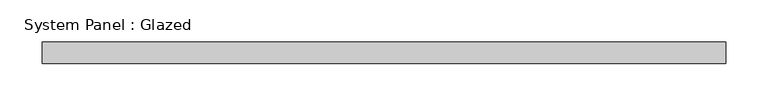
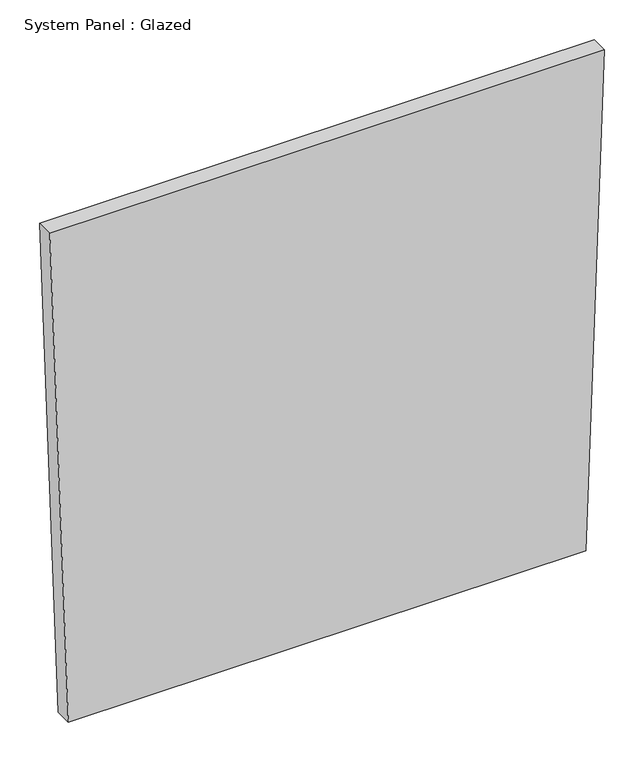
"""IFC4 building model written with IfcOpenShell, lengths in millimetres: plate geometry, System Panel : Glazed."""

import ifcopenshell
import ifcopenshell.guid

model = None  # the IFC model being written
_history = None  # IfcOwnerHistory: only IFC2X3 demands one
_inside = {}  # id of a spatial element -> (the spatial element, [elements in it])
_under = {}  # id of a project, library or spatial element -> (it, [spatial elements below it])
_declared = {}  # id of a project -> (the project, [libraries it declares])
_typed = {}  # id of a type object -> (the type object, [elements of that type])
_made_of = {}  # id of a material, layer set ... -> (it, [elements and type objects made of it])


def new_model(schema):
    """Start an empty IFC model of exactly this schema.

    Asked for "IFC4X3", IfcOpenShell would pick the latest addendum, in which some entities
    have other attributes; the version numbers below select the first issue.
    IFC2X3 requires an IfcOwnerHistory on every rooted entity: one is made here for all.
    """
    global model, _history
    if schema == "IFC4X3":
        model = ifcopenshell.file(schema_version=(4, 3, 0, 0))
    else:
        model = ifcopenshell.file(schema=schema)
    _inside.clear()
    _under.clear()
    _declared.clear()
    _typed.clear()
    _made_of.clear()
    _history = None
    if model.schema == "IFC2X3":
        org = make("IfcOrganization", Name="unknown")
        user = make(
            "IfcPersonAndOrganization",
            ThePerson=make("IfcPerson", FamilyName="unknown"),
            TheOrganization=org,
        )
        app = make(
            "IfcApplication",
            ApplicationDeveloper=org,
            Version="unknown",
            ApplicationFullName="unknown",
            ApplicationIdentifier="unknown",
        )
        _history = make(
            "IfcOwnerHistory",
            OwningUser=user,
            OwningApplication=app,
            ChangeAction="ADDED",
            CreationDate=0,
        )
    return model


def make(cls, **values):
    """One entity of the class cls with the attributes given. An attribute that is None is left unset."""
    return model.create_entity(
        cls, **{name: value for name, value in values.items() if value is not None}
    )


def rooted(cls, **values):
    """An entity with a GlobalId (a new one), such as an element, a storey or a relation."""
    return make(cls, GlobalId=ifcopenshell.guid.new(), OwnerHistory=_history, **values)


def si_unit(unit_type, name, prefix=None):
    """IfcSIUnit, for example si_unit("LENGTHUNIT", "METRE", prefix="MILLI")."""
    return make("IfcSIUnit", UnitType=unit_type, Prefix=prefix, Name=name)


def assignment(units):
    """IfcUnitAssignment: the units of a project."""
    return None if units is None else make("IfcUnitAssignment", Units=units)


def point(xyz):
    """IfcCartesianPoint."""
    return None if xyz is None else make("IfcCartesianPoint", Coordinates=xyz)


def direction(xyz):
    """IfcDirection."""
    return None if xyz is None else make("IfcDirection", DirectionRatios=xyz)


def frame(location, z_axis=None, x_axis=None):
    """IfcAxis2Placement3D, a coordinate frame: its origin and axes. An axis left out is left unset."""
    return make(
        "IfcAxis2Placement3D",
        Location=point(location),
        Axis=direction(z_axis),
        RefDirection=direction(x_axis),
    )


def origin():
    """The frame at (0, 0, 0) with its axes left unset."""
    return frame((0.0, 0.0, 0.0))


def place(relative_to, where):
    """IfcLocalPlacement: puts the frame where relative to a parent placement (None: the world)."""
    return make(
        "IfcLocalPlacement", PlacementRelTo=relative_to, RelativePlacement=where
    )


def context(
    kind, dimensions, precision=None, world=None, true_north=None, identifier=None
):
    """IfcGeometricRepresentationContext, for example the 3D "Model" context."""
    return make(
        "IfcGeometricRepresentationContext",
        ContextIdentifier=identifier,
        ContextType=kind,
        CoordinateSpaceDimension=dimensions,
        Precision=precision,
        WorldCoordinateSystem=world,
        TrueNorth=true_north,
    )


def project(units=None, contexts=None):
    """IfcProject with its units and contexts."""
    return rooted(
        "IfcProject",
        Name="project",
        RepresentationContexts=contexts,
        UnitsInContext=assignment(units),
    )


def spatial(cls, under=None, at=None, **own):
    """A site, building, storey or space (cls), placed at a placement, below another one or the project."""
    s = rooted(cls, ObjectPlacement=at, **own)
    if under is not None:
        _under.setdefault(under.id(), (under, []))[1].append(s)
    return s


def polyline(points):
    """IfcPolyline through the points."""
    return make("IfcPolyline", Points=[point(p) for p in points])


def outline(outer, holes=None, kind="AREA"):
    """IfcArbitraryClosedProfileDef: a profile drawn as a closed curve; with holes, ...WithVoids."""
    if holes is None:
        return make("IfcArbitraryClosedProfileDef", ProfileType=kind, OuterCurve=outer)
    return make(
        "IfcArbitraryProfileDefWithVoids",
        ProfileType=kind,
        OuterCurve=outer,
        InnerCurves=holes,
    )


def extrude(swept, where, along, depth):
    """IfcExtrudedAreaSolid: the profile swept, set in the frame where, extruded along a direction by depth."""
    return make(
        "IfcExtrudedAreaSolid",
        SweptArea=swept,
        Position=where,
        ExtrudedDirection=direction(along),
        Depth=depth,
    )


def shape(context_of_items, identifier, shape_type, items):
    """IfcShapeRepresentation: the items that make up one representation, for example the "Body"."""
    return make(
        "IfcShapeRepresentation",
        ContextOfItems=context_of_items,
        RepresentationIdentifier=identifier,
        RepresentationType=shape_type,
        Items=items,
    )


def source(mapping_origin, context_of_items, identifier, shape_type, items):
    """IfcRepresentationMap: a shape defined once, which mapped items show again and again."""
    return make(
        "IfcRepresentationMap",
        MappingOrigin=mapping_origin,
        MappedRepresentation=shape(context_of_items, identifier, shape_type, items),
    )


def transform(
    local_origin,
    x_axis=None,
    y_axis=None,
    z_axis=None,
    scale=None,
    scale2=None,
    scale3=None,
    uniform=True,
):
    """IfcCartesianTransformationOperator3D, or its non-uniform kind. x_axis, y_axis, z_axis: its Axis1, 2, 3."""
    if uniform:
        return make(
            "IfcCartesianTransformationOperator3D",
            Axis1=direction(x_axis),
            Axis2=direction(y_axis),
            LocalOrigin=point(local_origin),
            Scale=scale,
            Axis3=direction(z_axis),
        )
    return make(
        "IfcCartesianTransformationOperator3DnonUniform",
        Axis1=direction(x_axis),
        Axis2=direction(y_axis),
        LocalOrigin=point(local_origin),
        Scale=scale,
        Axis3=direction(z_axis),
        Scale2=scale2,
        Scale3=scale3,
    )


def mapped(mapping_source, mapping_target):
    """IfcMappedItem: shows the shape of a source again, moved by a transform."""
    return make(
        "IfcMappedItem", MappingSource=mapping_source, MappingTarget=mapping_target
    )


def made_of(thing, what):
    """Note that an element or type object is made of a material, layer set ...; save() writes the relation."""
    if what is not None:
        _made_of.setdefault(what.id(), (what, []))[1].append(thing)
    return thing


def element(
    cls,
    number,
    at=None,
    inside=None,
    cuts=None,
    type_object=None,
    material=None,
    context=None,
    identifier="Body",
    shape_type=None,
    held_by="IfcProductDefinitionShape",
    body=None,
    shapes=None,
    **own,
):
    """One element of the class cls, such as IfcWall. Its Tag is "e" and its number.

    at: its placement. inside: the storey or other place that contains it. cuts: it is an
    opening in that element (IfcRelVoidsElement). A single representation is given by context,
    identifier, shape_type and body (its items); several are given by shapes. held_by: the class
    of the entity that holds the representations. save() writes the other relations.
    """
    e = rooted(cls, Tag="e%d" % number, ObjectPlacement=at, **own)
    if body is not None:
        shapes = [shape(context, identifier, shape_type, body)]
    if shapes is not None:
        e.Representation = make(held_by, Representations=shapes)
    if inside is not None:
        _inside.setdefault(inside.id(), (inside, []))[1].append(e)
    if cuts is not None:
        rooted(
            "IfcRelVoidsElement", RelatingBuildingElement=cuts, RelatedOpeningElement=e
        )
    if type_object is not None:
        _typed.setdefault(type_object.id(), (type_object, []))[1].append(e)
    return made_of(e, material)


def aggregate(whole, parts):
    """IfcRelAggregates: a whole, such as a stair, and the parts it consists of."""
    return rooted("IfcRelAggregates", RelatingObject=whole, RelatedObjects=parts)


def save(model, path):
    """Write the relations noted so far, then the file.

    IfcRelAggregates (storeys below a building ...), IfcRelContainedInSpatialStructure (elements
    in a storey), IfcRelDefinesByType, IfcRelAssociatesMaterial and IfcRelDeclares: one each for
    every whole, place, type object, material and project.
    """
    for whole, parts in _under.values():
        aggregate(whole, parts)
    for where, things in _inside.values():
        rooted(
            "IfcRelContainedInSpatialStructure",
            RelatedElements=things,
            RelatingStructure=where,
        )
    for kind, things in _typed.values():
        rooted("IfcRelDefinesByType", RelatedObjects=things, RelatingType=kind)
    for what, things in _made_of.values():
        rooted("IfcRelAssociatesMaterial", RelatedObjects=things, RelatingMaterial=what)
    for by, libraries in _declared.values():
        rooted("IfcRelDeclares", RelatingContext=by, RelatedDefinitions=libraries)
    model.write(path)


def system_panel_glazed_d4018649(model_context):
    return source(origin(), model_context, "Body", "SweptSolid", [
        extrude(outline(polyline([(0.0, -377.0682081), (0.0, 377.0682081), (761.5238602, 404.0016516), (761.5238602, -404.0016516), (0.0, -377.0682081)])), frame((0.0, -44.45, 0.0), z_axis=(0.0, 1.0, 0.0), x_axis=(0.0, 0.0, 1.0)), (0.0, 0.0, 1.0), 25.4),
    ])


if __name__ == "__main__":
    model = new_model("IFC4")
    model_context = context("Model", 3, world=origin())
    ifc_project = project(units=[si_unit("LENGTHUNIT", "METRE", prefix="MILLI")], contexts=[model_context])
    site = spatial("IfcSite", under=ifc_project)
    building = spatial("IfcBuilding", under=site)
    placement = place(None, origin())
    system_panel_glazed_shape = system_panel_glazed_d4018649(model_context)
    element("IfcPlate", 1, ObjectType="System Panel : Glazed", at=placement, inside=building, context=model_context, shape_type="MappedRepresentation", body=[
        mapped(system_panel_glazed_shape, transform((0.0, 0.0, 0.0), x_axis=(1.0, 0.0, 0.0), y_axis=(0.0, 1.0, 0.0), z_axis=(0.0, 0.0, 1.0))),
    ])
    save(model, "model.ifc")
